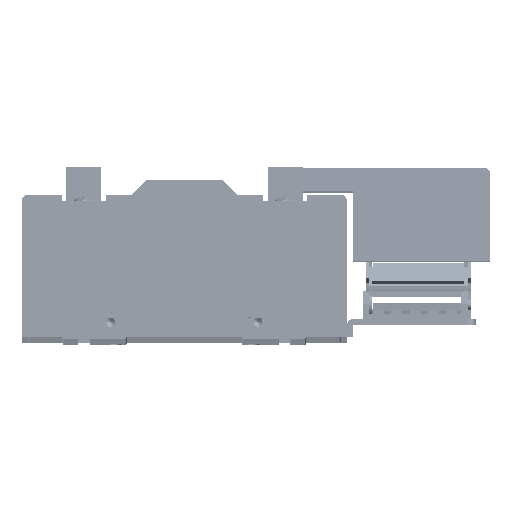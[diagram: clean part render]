
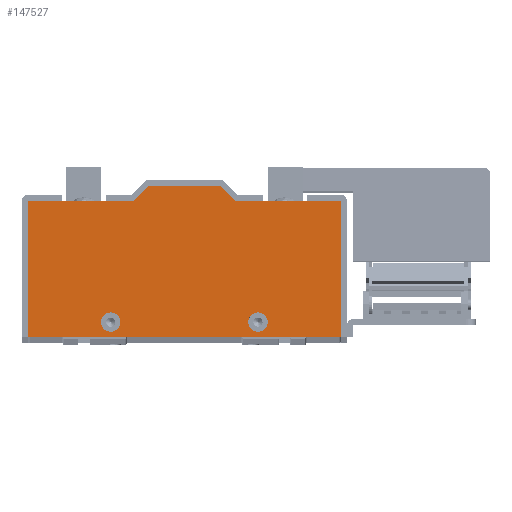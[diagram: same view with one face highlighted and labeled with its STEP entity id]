
A CAD part, top view. The second image highlights one B-rep face of the part: STEP entity #147527.
In plain terms, the highlighted planar face has unit normal (0, 0, 1).
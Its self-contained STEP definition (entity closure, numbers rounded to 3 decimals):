
#111376 = LINE ( 'NONE', #111597, #111596 ) ;
#111594 = DIRECTION ( 'NONE',  ( -1., 0., 0. ) ) ;
#111596 = VECTOR ( 'NONE', #111594, 1000. ) ;
#111597 = CARTESIAN_POINT ( 'NONE',  ( 27.5, 37., 9.525 ) ) ;
#122173 = CARTESIAN_POINT ( 'NONE',  ( 27.5, 37., 9.525 ) ) ;
#122176 = CARTESIAN_POINT ( 'NONE',  ( -45.25, -29., 9.525 ) ) ;
#129463 = DIRECTION ( 'NONE',  ( 1., 0., 0. ) ) ;
#129464 = DIRECTION ( 'NONE',  ( 0., 0., 1. ) ) ;
#129465 = CARTESIAN_POINT ( 'NONE',  ( 40., -29., 9.525 ) ) ;
#129466 = AXIS2_PLACEMENT_3D ( 'NONE', #129465, #129464, #129463 ) ;
#129467 = CIRCLE ( 'NONE', #129466, 5.25 ) ;
#129493 = CARTESIAN_POINT ( 'NONE',  ( -85., 37., 9.525 ) ) ;
#129494 = DIRECTION ( 'NONE',  ( 0., -1., 0. ) ) ;
#129495 = VECTOR ( 'NONE', #129494, 1000. ) ;
#129496 = CARTESIAN_POINT ( 'NONE',  ( -85., 37., 9.525 ) ) ;
#129497 = LINE ( 'NONE', #129496, #129495 ) ;
#129527 = CARTESIAN_POINT ( 'NONE',  ( 85., -37., 9.525 ) ) ;
#129546 = LINE ( 'NONE', #129610, #129609 ) ;
#129549 = DIRECTION ( 'NONE',  ( 1., 0., 0. ) ) ;
#129550 = DIRECTION ( 'NONE',  ( 0., 0., 1. ) ) ;
#129551 = CARTESIAN_POINT ( 'NONE',  ( -40., -29., 9.525 ) ) ;
#129552 = AXIS2_PLACEMENT_3D ( 'NONE', #129551, #129550, #129549 ) ;
#129553 = CIRCLE ( 'NONE', #129552, 5.25 ) ;
#129554 = CARTESIAN_POINT ( 'NONE',  ( -85., -37., 9.525 ) ) ;
#129596 = CARTESIAN_POINT ( 'NONE',  ( 85., 37., 9.525 ) ) ;
#129608 = DIRECTION ( 'NONE',  ( 1., 0., 0. ) ) ;
#129609 = VECTOR ( 'NONE', #129608, 1000. ) ;
#129610 = CARTESIAN_POINT ( 'NONE',  ( -85., -37., 9.525 ) ) ;
#129616 = CARTESIAN_POINT ( 'NONE',  ( -34.75, -29., 9.525 ) ) ;
#129622 = DIRECTION ( 'NONE',  ( 0., 1., 0. ) ) ;
#129623 = VECTOR ( 'NONE', #129622, 1000. ) ;
#129624 = CARTESIAN_POINT ( 'NONE',  ( 85., 37., 9.525 ) ) ;
#129625 = LINE ( 'NONE', #129624, #129623 ) ;
#129630 = CARTESIAN_POINT ( 'NONE',  ( 45.25, -29., 9.525 ) ) ;
#129631 = CARTESIAN_POINT ( 'NONE',  ( 34.75, -29., 9.525 ) ) ;
#129934 = DIRECTION ( 'NONE',  ( -1., 0., 0. ) ) ;
#129935 = VECTOR ( 'NONE', #129934, 1000. ) ;
#129936 = CARTESIAN_POINT ( 'NONE',  ( -85., 37., 9.525 ) ) ;
#129937 = LINE ( 'NONE', #129936, #129935 ) ;
#129990 = DIRECTION ( 'NONE',  ( 1., 0., 0. ) ) ;
#129991 = DIRECTION ( 'NONE',  ( 0., 0., 1. ) ) ;
#129992 = CARTESIAN_POINT ( 'NONE',  ( -85., 37., 9.525 ) ) ;
#129993 = AXIS2_PLACEMENT_3D ( 'NONE', #129992, #129991, #129990 ) ;
#129994 = PLANE ( 'NONE',  #129993 ) ;
#129995 = FACE_OUTER_BOUND ( 'NONE', #147764, .T. ) ;
#129996 = FACE_BOUND ( 'NONE', #147779, .T. ) ;
#129997 = FACE_BOUND ( 'NONE', #147531, .T. ) ;
#130363 = DIRECTION ( 'NONE',  ( 1., 0., 0. ) ) ;
#130364 = DIRECTION ( 'NONE',  ( 0., 0., 1. ) ) ;
#130365 = CARTESIAN_POINT ( 'NONE',  ( 40., -29., 9.525 ) ) ;
#130366 = AXIS2_PLACEMENT_3D ( 'NONE', #130365, #130364, #130363 ) ;
#130367 = CIRCLE ( 'NONE', #130366, 5.25 ) ;
#130394 = LINE ( 'NONE', #130462, #130461 ) ;
#130396 = CARTESIAN_POINT ( 'NONE',  ( 19.5, 45., 9.525 ) ) ;
#130409 = CARTESIAN_POINT ( 'NONE',  ( -19.5, 45., 9.525 ) ) ;
#130415 = DIRECTION ( 'NONE',  ( 1., 0., 0. ) ) ;
#130416 = DIRECTION ( 'NONE',  ( 0., 0., 1. ) ) ;
#130417 = AXIS2_PLACEMENT_3D ( 'NONE', #130424, #130416, #130415 ) ;
#130418 = CIRCLE ( 'NONE', #130417, 5.25 ) ;
#130424 = CARTESIAN_POINT ( 'NONE',  ( -40., -29., 9.525 ) ) ;
#130444 = DIRECTION ( 'NONE',  ( -0.707, -0.707, 0. ) ) ;
#130445 = VECTOR ( 'NONE', #130444, 1000. ) ;
#130446 = CARTESIAN_POINT ( 'NONE',  ( -27.5, 37., 9.525 ) ) ;
#130447 = LINE ( 'NONE', #130446, #130445 ) ;
#130449 = CARTESIAN_POINT ( 'NONE',  ( -27.5, 37., 9.525 ) ) ;
#130456 = DIRECTION ( 'NONE',  ( -0.707, 0.707, 0. ) ) ;
#130457 = VECTOR ( 'NONE', #130456, 1000. ) ;
#130458 = CARTESIAN_POINT ( 'NONE',  ( 19.5, 45., 9.525 ) ) ;
#130459 = LINE ( 'NONE', #130458, #130457 ) ;
#130460 = DIRECTION ( 'NONE',  ( -1., 0., 0. ) ) ;
#130461 = VECTOR ( 'NONE', #130460, 1000. ) ;
#130462 = CARTESIAN_POINT ( 'NONE',  ( -19.5, 45., 9.525 ) ) ;
#136951 = VERTEX_POINT ( 'NONE', #122176 ) ;
#136953 = VERTEX_POINT ( 'NONE', #122173 ) ;
#147212 = EDGE_CURVE ( 'NONE', #147302, #147304, #129467, .T. ) ;
#147230 = EDGE_CURVE ( 'NONE', #147231, #147273, #129497, .T. ) ;
#147231 = VERTEX_POINT ( 'NONE', #129493 ) ;
#147250 = VERTEX_POINT ( 'NONE', #129527 ) ;
#147273 = VERTEX_POINT ( 'NONE', #129554 ) ;
#147275 = EDGE_CURVE ( 'NONE', #136951, #147311, #129553, .T. ) ;
#147279 = EDGE_CURVE ( 'NONE', #147273, #147250, #129546, .T. ) ;
#147286 = VERTEX_POINT ( 'NONE', #129596 ) ;
#147302 = VERTEX_POINT ( 'NONE', #129631 ) ;
#147304 = VERTEX_POINT ( 'NONE', #129630 ) ;
#147308 = EDGE_CURVE ( 'NONE', #147250, #147286, #129625, .T. ) ;
#147311 = VERTEX_POINT ( 'NONE', #129616 ) ;
#147520 = EDGE_CURVE ( 'NONE', #147819, #147231, #129937, .T. ) ;
#147527 = ADVANCED_FACE ( 'NONE', ( #129997, #129996, #129995 ), #129994, .T. ) ;
#147531 = EDGE_LOOP ( 'NONE', ( #147792, #147794 ) ) ;
#147764 = EDGE_LOOP ( 'NONE', ( #147766, #147765, #147768, #147770, #147772, #147795, #147826, #147825 ) ) ;
#147765 = ORIENTED_EDGE ( 'NONE', *, *, #147279, .T. ) ;
#147766 = ORIENTED_EDGE ( 'NONE', *, *, #147230, .T. ) ;
#147768 = ORIENTED_EDGE ( 'NONE', *, *, #147308, .T. ) ;
#147770 = ORIENTED_EDGE ( 'NONE', *, *, #148513, .T. ) ;
#147772 = ORIENTED_EDGE ( 'NONE', *, *, #147814, .T. ) ;
#147779 = EDGE_LOOP ( 'NONE', ( #147780, #147783 ) ) ;
#147780 = ORIENTED_EDGE ( 'NONE', *, *, #147781, .F. ) ;
#147781 = EDGE_CURVE ( 'NONE', #147304, #147302, #130367, .T. ) ;
#147783 = ORIENTED_EDGE ( 'NONE', *, *, #147212, .F. ) ;
#147792 = ORIENTED_EDGE ( 'NONE', *, *, #147793, .F. ) ;
#147793 = EDGE_CURVE ( 'NONE', #147311, #136951, #130418, .T. ) ;
#147794 = ORIENTED_EDGE ( 'NONE', *, *, #147275, .F. ) ;
#147795 = ORIENTED_EDGE ( 'NONE', *, *, #147813, .T. ) ;
#147798 = VERTEX_POINT ( 'NONE', #130409 ) ;
#147809 = VERTEX_POINT ( 'NONE', #130396 ) ;
#147813 = EDGE_CURVE ( 'NONE', #147809, #147798, #130394, .T. ) ;
#147814 = EDGE_CURVE ( 'NONE', #136953, #147809, #130459, .T. ) ;
#147819 = VERTEX_POINT ( 'NONE', #130449 ) ;
#147823 = EDGE_CURVE ( 'NONE', #147798, #147819, #130447, .T. ) ;
#147825 = ORIENTED_EDGE ( 'NONE', *, *, #147520, .T. ) ;
#147826 = ORIENTED_EDGE ( 'NONE', *, *, #147823, .T. ) ;
#148513 = EDGE_CURVE ( 'NONE', #147286, #136953, #111376, .T. ) ;
